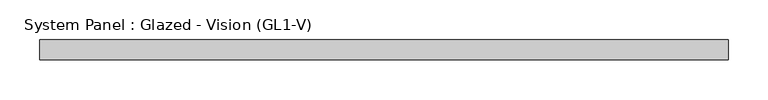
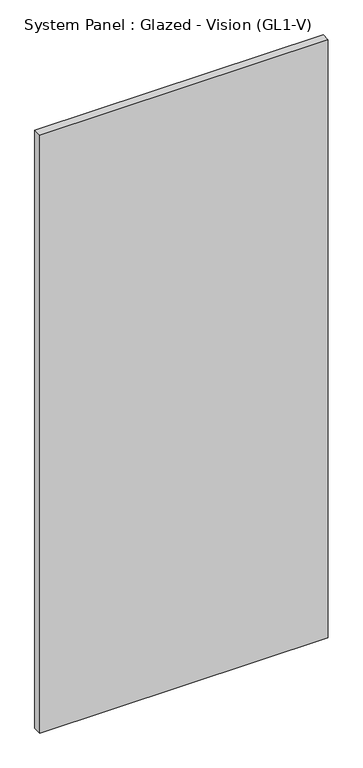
"""IFC4 building model written with IfcOpenShell, lengths in millimetres: plate geometry, System Panel : Glazed - Vision (GL1-V)."""

from ifc_helpers import new_model, si_unit, origin, origin_with_axes, place, context, project, spatial, polyline, outline, extrude, source, transform, mapped, element, save


def system_panel_glazed_vision_gl1_v_e0871700(model_context):
    return source(origin(), model_context, "Body", "SweptSolid", [
        extrude(outline(polyline([(434.9702038, -25.4), (-434.9702038, -25.4), (-434.9702038, 0.0), (434.9702038, 0.0), (434.9702038, -25.4)])), origin_with_axes(), (0.0, 0.0, 1.0), 1904.999999),
    ])


if __name__ == "__main__":
    model = new_model("IFC4")
    model_context = context("Model", 3, world=origin())
    ifc_project = project(units=[si_unit("LENGTHUNIT", "METRE", prefix="MILLI")], contexts=[model_context])
    site = spatial("IfcSite", under=ifc_project)
    building = spatial("IfcBuilding", under=site)
    placement = place(None, origin())
    system_panel_glazed_vision_gl1_v_shape = system_panel_glazed_vision_gl1_v_e0871700(model_context)
    element("IfcPlate", 1, ObjectType="System Panel : Glazed - Vision (GL1-V)", at=placement, inside=building, context=model_context, shape_type="MappedRepresentation", body=[
        mapped(system_panel_glazed_vision_gl1_v_shape, transform((0.0, 0.0, 0.0), x_axis=(1.0, 0.0, 0.0), y_axis=(0.0, 1.0, 0.0), z_axis=(0.0, 0.0, 1.0))),
    ])
    save(model, "model.ifc")
